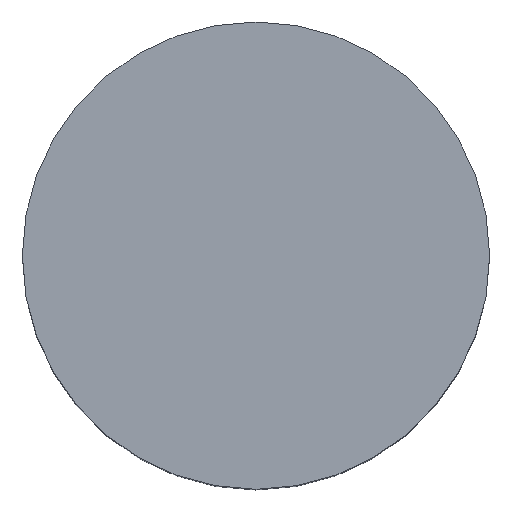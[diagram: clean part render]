
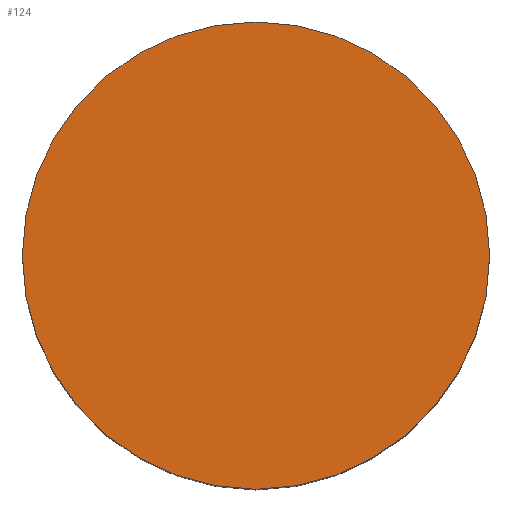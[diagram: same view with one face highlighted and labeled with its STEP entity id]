
A CAD part, top view. The second image highlights one B-rep face of the part: STEP entity #124.
In plain terms, the highlighted planar face has unit normal (0, 0, 1).
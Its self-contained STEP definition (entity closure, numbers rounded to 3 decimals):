
#40 = EDGE_CURVE('',#41,#41,#43,.T.);
#41 = VERTEX_POINT('',#42);
#42 = CARTESIAN_POINT('',(15.5,0.,27.5));
#43 = SURFACE_CURVE('',#44,(#49,#61),.PCURVE_S1.);
#44 = CIRCLE('',#45,15.5);
#45 = AXIS2_PLACEMENT_3D('',#46,#47,#48);
#46 = CARTESIAN_POINT('',(0.,0.,27.5));
#47 = DIRECTION('',(0.,0.,1.));
#48 = DIRECTION('',(1.,0.,-0.));
#49 = PCURVE('',#50,#55);
#50 = CYLINDRICAL_SURFACE('',#51,15.5);
#51 = AXIS2_PLACEMENT_3D('',#52,#53,#54);
#52 = CARTESIAN_POINT('',(0.,0.,0.));
#53 = DIRECTION('',(0.,0.,1.));
#54 = DIRECTION('',(1.,0.,-0.));
#55 = DEFINITIONAL_REPRESENTATION('',(#56),#60);
#56 = LINE('',#57,#58);
#57 = CARTESIAN_POINT('',(0.,27.5));
#58 = VECTOR('',#59,1.);
#59 = DIRECTION('',(1.,0.));
#60 = ( GEOMETRIC_REPRESENTATION_CONTEXT(2) 
PARAMETRIC_REPRESENTATION_CONTEXT() REPRESENTATION_CONTEXT('2D SPACE',''
  ) );
#61 = PCURVE('',#62,#67);
#62 = PLANE('',#63);
#63 = AXIS2_PLACEMENT_3D('',#64,#65,#66);
#64 = CARTESIAN_POINT('',(0.,0.,27.5));
#65 = DIRECTION('',(0.,0.,1.));
#66 = DIRECTION('',(1.,0.,-0.));
#67 = DEFINITIONAL_REPRESENTATION('',(#68),#72);
#68 = CIRCLE('',#69,15.5);
#69 = AXIS2_PLACEMENT_2D('',#70,#71);
#70 = CARTESIAN_POINT('',(0.,0.));
#71 = DIRECTION('',(1.,0.));
#72 = ( GEOMETRIC_REPRESENTATION_CONTEXT(2) 
PARAMETRIC_REPRESENTATION_CONTEXT() REPRESENTATION_CONTEXT('2D SPACE',''
  ) );
#124 = ADVANCED_FACE('',(#125),#62,.T.);
#125 = FACE_BOUND('',#126,.T.);
#126 = EDGE_LOOP('',(#127));
#127 = ORIENTED_EDGE('',*,*,#40,.T.);
